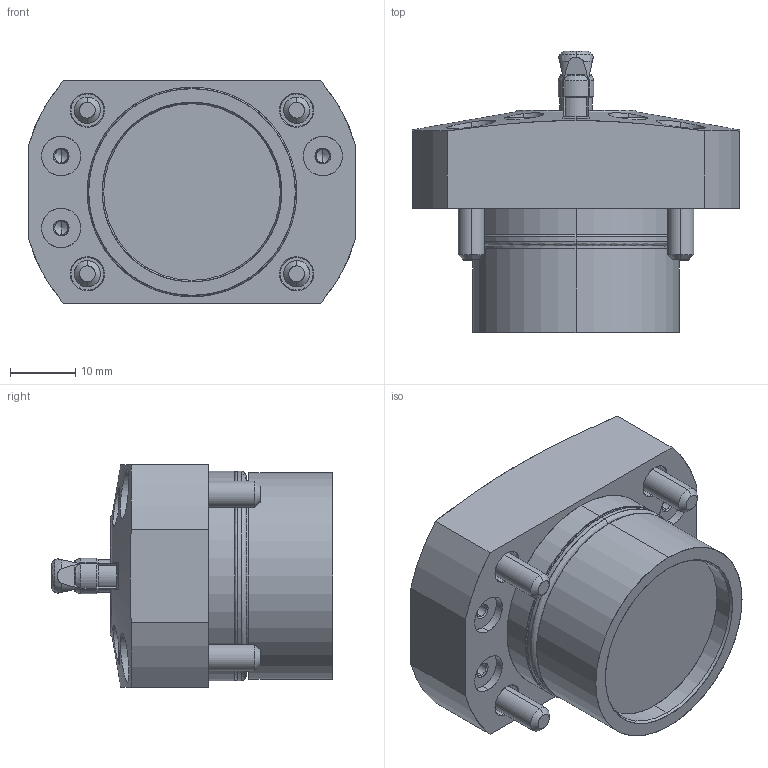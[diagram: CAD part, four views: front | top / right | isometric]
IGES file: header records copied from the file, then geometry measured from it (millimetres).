
Start section: SolidWorks IGES file using analytic representation for surfaces
Global section: file name: L:\電子カタログ-3Ｄ\SFH\ｱｾﾝﾌﾞﾘ\SFH1060_N.IGS; native system: SolidWorks 2010; preprocessor: SolidWorks 2010; author: D214; date: 101102.082341; units: millimetre
Bounding box: 50 x 43 x 34 mm (x, y, z)
Surface area: 15039.8 mm2 (no closed solid volume)
Topology: 0 solids, 0 shells, 478 faces, 6071 edges, 6047 vertices
Faces by surface type: revolution 274, bspline 204
